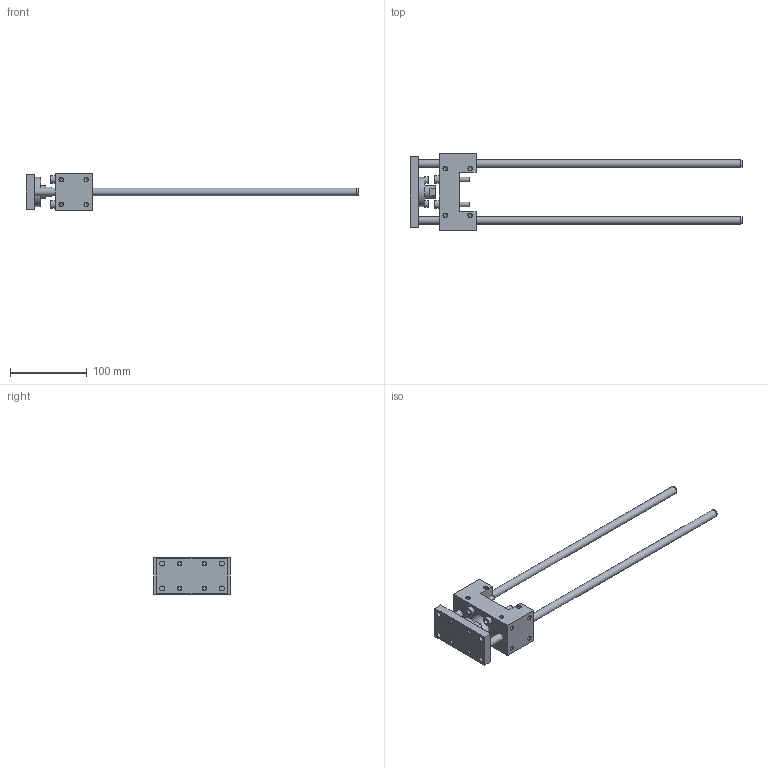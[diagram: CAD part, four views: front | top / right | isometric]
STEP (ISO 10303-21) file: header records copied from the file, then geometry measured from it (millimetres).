
FILE_DESCRIPTION( ( 'STEP AP214' ), '1' );
FILE_NAME( 'U:/Etudes/Top Solid/BIBLIO 3D AVM/TOP/PNEUMATIQUE/GUIDAGES/Type 34 (en U)/_Légère/3446130.step', '2005-05-27T12:20:33', ( ' ' ), ( ' ' ), 'XStep 1.0', ' ', ' ' );
FILE_SCHEMA( ( 'automotive_design' ) );
Length unit declared in the file: metre
Products named in the file (2): 1; 2
Bounding box: 433 x 100 x 48 mm (x, y, z)
Volume: 267978.2 mm3; surface area: 80026.4 mm2
Topology: 2 solids, 5 shells, 207 faces, 500 edges, 327 vertices
Faces by surface type: plane 90, cylinder 72, cone 45
Full cylindrical faces by diameter (mm): 4.134 x4, 4.918 x28, 5 x4, 5.5 x2, 6 x8, 6.5 x8, 8.5 x2, 8.647 x2, 10 x8, 16 x1, 18 x1, 22.8 x1, 25 x1, 30 x1, 38 x1
Entity records: 6811 total; most frequent: CARTESIAN_POINT 993, DIRECTION 882, ORIENTED_EDGE 628, EDGE_LOOP 376, AXIS2_PLACEMENT_3D 365, EDGE_CURVE 314, FACE_OUTER_BOUND 279, VERTEX_POINT 272
